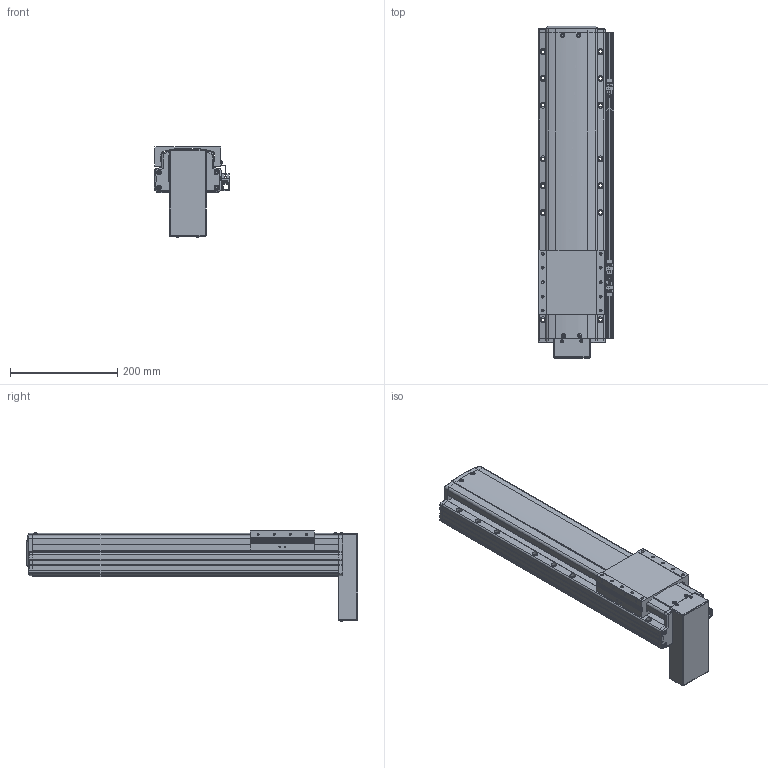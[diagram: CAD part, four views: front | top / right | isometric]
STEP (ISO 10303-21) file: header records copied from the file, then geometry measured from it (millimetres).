
FILE_DESCRIPTION(('STEP AP214'),'1');
FILE_NAME('Z:/Web/3D/PSA125/STP/PSA125-350 (3D)/PSA125ㅁㅁ-350PB+3SR.stp','2014-06-23T00:02:14',(' '),(' '),'Spatial InterOp 3D',' ',' ');
FILE_SCHEMA(('automotive_design'));
Length unit declared in the file: millimetre
Products named in the file (47): 스크루 : Round - M4.0 x 10.0; RRCV-PA120; SLIDE; BASE; FRCV-PA120-1(기준 뿔 제거); RR1500; 스크루 : Round - M4.0 x 6.0; 너트 : Square - M10.0 x 220.7419; 1; 2; 파트105; 스크루 : Round - M3.0 x 6.0; EE-SX674; SBK-SX674-352; M3.0 x 6.0; SRL-16x17-380L; SGD-PA95; 스크루 : Round - M3.0 x 8.0
Bounding box: 141 x 618.6 x 169.06 mm (x, y, z)
Volume: 5438907.3 mm3; surface area: 563508.6 mm2
Topology: 47 solids, 47 shells, 2595 faces, 6867 edges, 4404 vertices
Faces by surface type: plane 1489, cylinder 704, cone 266, sphere 72, torus 33, bspline 31
Entity records: 103350 total; most frequent: CARTESIAN_POINT 16620, DIRECTION 13836, ORIENTED_EDGE 13474, EDGE_CURVE 6737, AXIS2_PLACEMENT_3D 4660, LINE 4516, VECTOR 4516, VERTEX_POINT 4404
